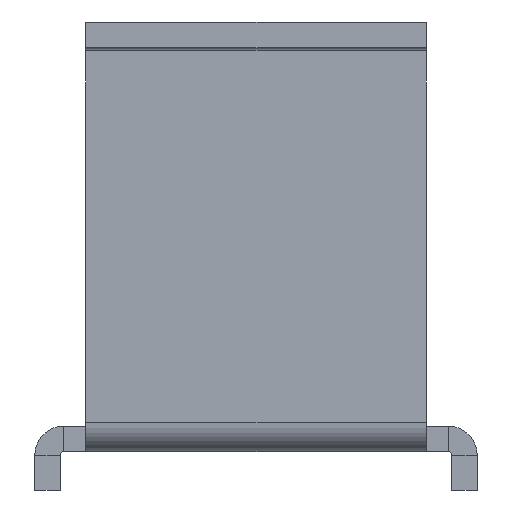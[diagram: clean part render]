
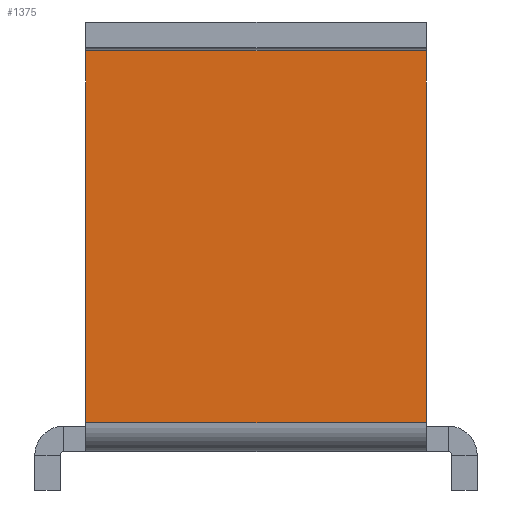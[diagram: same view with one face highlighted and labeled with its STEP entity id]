
A CAD part, left-side view. The second image highlights one B-rep face of the part: STEP entity #1375.
In plain terms, the highlighted planar face has unit normal (-1, 0, 0).
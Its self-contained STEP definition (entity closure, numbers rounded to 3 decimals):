
#72=PLANE('',#1498);
#151=FACE_OUTER_BOUND('',#241,.T.);
#241=EDGE_LOOP('',(#1215,#1216,#1217,#1218));
#385=LINE('',#2254,#533);
#386=LINE('',#2256,#534);
#387=LINE('',#2258,#535);
#388=LINE('',#2259,#536);
#533=VECTOR('',#1859,80.);
#534=VECTOR('',#1860,87.4);
#535=VECTOR('',#1861,80.);
#536=VECTOR('',#1862,87.4);
#697=VERTEX_POINT('',#2248);
#698=VERTEX_POINT('',#2253);
#699=VERTEX_POINT('',#2255);
#700=VERTEX_POINT('',#2257);
#876=EDGE_CURVE('',#698,#697,#385,.T.);
#877=EDGE_CURVE('',#699,#698,#386,.T.);
#878=EDGE_CURVE('',#699,#700,#387,.T.);
#879=EDGE_CURVE('',#697,#700,#388,.T.);
#1215=ORIENTED_EDGE('',*,*,#876,.F.);
#1216=ORIENTED_EDGE('',*,*,#877,.F.);
#1217=ORIENTED_EDGE('',*,*,#878,.T.);
#1218=ORIENTED_EDGE('',*,*,#879,.F.);
#1375=ADVANCED_FACE('',(#151),#72,.F.);
#1498=AXIS2_PLACEMENT_3D('',#2252,#1857,#1858);
#1857=DIRECTION('center_axis',(1.,0.,0.));
#1858=DIRECTION('ref_axis',(0.,0.,-1.));
#1859=DIRECTION('',(0.,1.,0.));
#1860=DIRECTION('',(0.,0.,-1.));
#1861=DIRECTION('',(0.,1.,0.));
#1862=DIRECTION('',(0.,0.,1.));
#2248=CARTESIAN_POINT('',(-121.,40.,-94.2));
#2252=CARTESIAN_POINT('Origin',(-121.,0.,
-211.5));
#2253=CARTESIAN_POINT('',(-121.,-40.,-94.2));
#2254=CARTESIAN_POINT('',(-121.,0.,-94.2));
#2255=CARTESIAN_POINT('',(-121.,-40.,-6.8));
#2256=CARTESIAN_POINT('',(-121.,-40.,-419.3));
#2257=CARTESIAN_POINT('',(-121.,40.,-6.8));
#2258=CARTESIAN_POINT('',(-121.,0.,-6.8));
#2259=CARTESIAN_POINT('',(-121.,40.,35.5));
